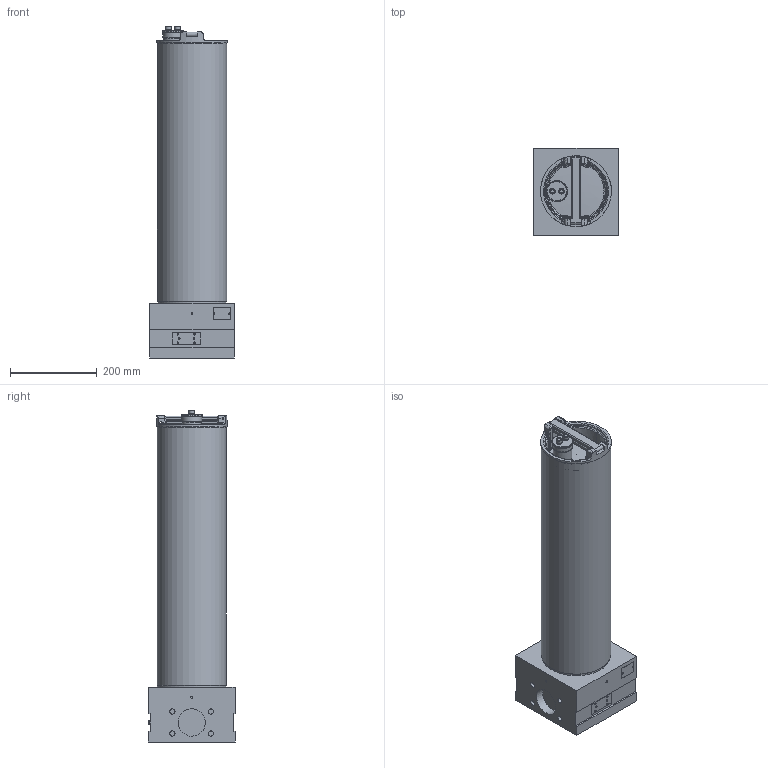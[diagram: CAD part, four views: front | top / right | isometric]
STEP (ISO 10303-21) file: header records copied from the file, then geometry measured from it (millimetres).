
FILE_DESCRIPTION((''),'2;1');
FILE_NAME('U:\Users\a.heinl\NebenstromfilterFN300_163.stp', '2013-06-24T10:20:28',('User'),('SDRC'),'I-DEAS Master Series 9','UNIX', 'Yes');
FILE_SCHEMA(('AUTOMOTIVE_DESIGN { 1 0 10303 214 1 1 1 1 }'));
Length unit declared in the file: millimetre
Products named in the file (1): 13778100(237885)
Bounding box: 195 x 201.41 x 766.25 mm (x, y, z)
Volume: 16557091 mm3; surface area: 586795.6 mm2
Topology: 1 solids, 17 shells, 564 faces, 1255 edges, 745 vertices
Faces by surface type: bspline 564
Entity records: 20196 total; most frequent: CARTESIAN_POINT 12929, ORIENTED_EDGE 2456, EDGE_CURVE 1228, VERTEX_POINT 745, EDGE_LOOP 643, FACE_OUTER_BOUND 564, ADVANCED_FACE 564, B_SPLINE_CURVE_WITH_KNOTS 533
